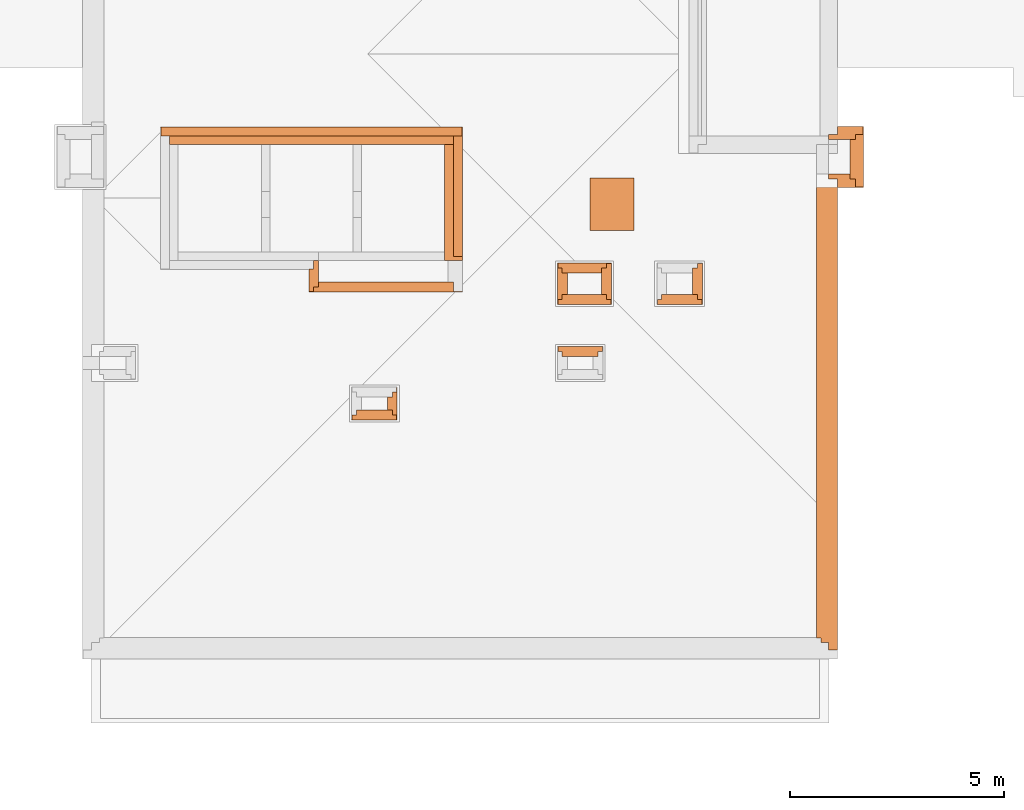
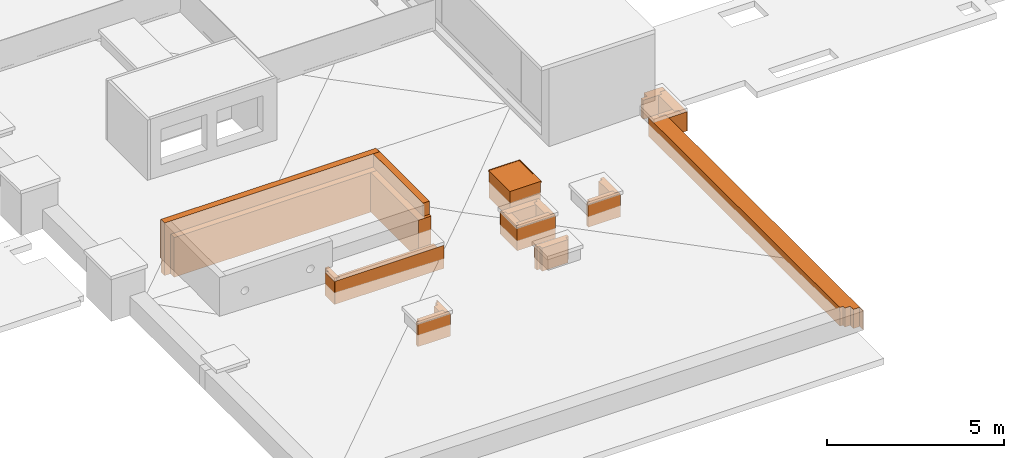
# One storey, part 11 of 16: 18 proxies.
"""IFC2X3 building model written with IfcOpenShell, lengths in millimetres."""

import ifcopenshell
import ifcopenshell.guid

model = None  # the IFC model being written
_history = None  # IfcOwnerHistory: only IFC2X3 demands one
_inside = {}  # id of a spatial element -> (the spatial element, [elements in it])
_under = {}  # id of a project, library or spatial element -> (it, [spatial elements below it])
_declared = {}  # id of a project -> (the project, [libraries it declares])
_typed = {}  # id of a type object -> (the type object, [elements of that type])
_made_of = {}  # id of a material, layer set ... -> (it, [elements and type objects made of it])


def new_model(schema):
    """Start an empty IFC model of exactly this schema.

    Asked for "IFC4X3", IfcOpenShell would pick the latest addendum, in which some entities
    have other attributes; the version numbers below select the first issue.
    IFC2X3 requires an IfcOwnerHistory on every rooted entity: one is made here for all.
    """
    global model, _history
    if schema == "IFC4X3":
        model = ifcopenshell.file(schema_version=(4, 3, 0, 0))
    else:
        model = ifcopenshell.file(schema=schema)
    _inside.clear()
    _under.clear()
    _declared.clear()
    _typed.clear()
    _made_of.clear()
    _history = None
    if model.schema == "IFC2X3":
        org = make("IfcOrganization", Name="unknown")
        user = make(
            "IfcPersonAndOrganization",
            ThePerson=make("IfcPerson", FamilyName="unknown"),
            TheOrganization=org,
        )
        app = make(
            "IfcApplication",
            ApplicationDeveloper=org,
            Version="unknown",
            ApplicationFullName="unknown",
            ApplicationIdentifier="unknown",
        )
        _history = make(
            "IfcOwnerHistory",
            OwningUser=user,
            OwningApplication=app,
            ChangeAction="ADDED",
            CreationDate=0,
        )
    return model


def make(cls, **values):
    """One entity of the class cls with the attributes given. An attribute that is None is left unset."""
    return model.create_entity(
        cls, **{name: value for name, value in values.items() if value is not None}
    )


def entity(cls, *values):
    """Any entity or typed value of the class cls, its attributes in the order of the schema. None: left unset."""
    e = model.create_entity(cls)
    for i, value in enumerate(values):
        if value is not None:
            e[i] = value
    return e


def rooted(cls, **values):
    """An entity with a GlobalId (a new one), such as an element, a storey or a relation."""
    return make(cls, GlobalId=ifcopenshell.guid.new(), OwnerHistory=_history, **values)


def si_unit(unit_type, name, prefix=None):
    """IfcSIUnit, for example si_unit("LENGTHUNIT", "METRE", prefix="MILLI")."""
    return make("IfcSIUnit", UnitType=unit_type, Prefix=prefix, Name=name)


def converted_unit(unit_type, name, factor, base, dimensions=None, offset=None):
    """IfcConversionBasedUnit, such as the inch: factor (a typed value) times the base unit."""
    return make(
        "IfcConversionBasedUnit"
        if offset is None
        else "IfcConversionBasedUnitWithOffset",
        ConversionOffset=offset,
        Dimensions=None
        if dimensions is None
        else entity("IfcDimensionalExponents", *dimensions),
        UnitType=unit_type,
        Name=name,
        ConversionFactor=make(
            "IfcMeasureWithUnit", ValueComponent=factor, UnitComponent=base
        ),
    )


def derived_unit(unit_type, elements):
    """IfcDerivedUnit: a product of units, each with its exponent."""
    return make(
        "IfcDerivedUnit",
        Elements=[
            make("IfcDerivedUnitElement", Unit=unit, Exponent=power)
            for unit, power in elements
        ],
        UnitType=unit_type,
    )


def money_unit(currency):
    """IfcMonetaryUnit."""
    return make("IfcMonetaryUnit", Currency=currency)


def assignment(units):
    """IfcUnitAssignment: the units of a project."""
    return None if units is None else make("IfcUnitAssignment", Units=units)


def point(xyz):
    """IfcCartesianPoint."""
    return None if xyz is None else make("IfcCartesianPoint", Coordinates=xyz)


def direction(xyz):
    """IfcDirection."""
    return None if xyz is None else make("IfcDirection", DirectionRatios=xyz)


def frame(location, z_axis=None, x_axis=None):
    """IfcAxis2Placement3D, a coordinate frame: its origin and axes. An axis left out is left unset."""
    return make(
        "IfcAxis2Placement3D",
        Location=point(location),
        Axis=direction(z_axis),
        RefDirection=direction(x_axis),
    )


def origin_with_axes():
    """The frame at (0, 0, 0) with the z axis (0, 0, 1) and the x axis (1, 0, 0) written out."""
    return frame((0.0, 0.0, 0.0), z_axis=(0.0, 0.0, 1.0), x_axis=(1.0, 0.0, 0.0))


def place(relative_to, where):
    """IfcLocalPlacement: puts the frame where relative to a parent placement (None: the world)."""
    return make(
        "IfcLocalPlacement", PlacementRelTo=relative_to, RelativePlacement=where
    )


def context(
    kind, dimensions, precision=None, world=None, true_north=None, identifier=None
):
    """IfcGeometricRepresentationContext, for example the 3D "Model" context."""
    return make(
        "IfcGeometricRepresentationContext",
        ContextIdentifier=identifier,
        ContextType=kind,
        CoordinateSpaceDimension=dimensions,
        Precision=precision,
        WorldCoordinateSystem=world,
        TrueNorth=true_north,
    )


def subcontext(parent, identifier, kind, view, scale=None):
    """IfcGeometricRepresentationSubContext, for example "Body" below "Model"."""
    return make(
        "IfcGeometricRepresentationSubContext",
        ContextIdentifier=identifier,
        ContextType=kind,
        ParentContext=parent,
        TargetScale=scale,
        TargetView=view,
    )


def project(units=None, contexts=None):
    """IfcProject with its units and contexts."""
    return rooted(
        "IfcProject",
        Name="project",
        RepresentationContexts=contexts,
        UnitsInContext=assignment(units),
    )


def spatial(cls, under=None, at=None, **own):
    """A site, building, storey or space (cls), placed at a placement, below another one or the project."""
    s = rooted(cls, ObjectPlacement=at, **own)
    if under is not None:
        _under.setdefault(under.id(), (under, []))[1].append(s)
    return s


def faces_of(points, faces, orient=None, outer=None):
    """IfcFace entities. A face is a list of loops; a loop is a list of indices into points, from 0.

    orient and outer hold one flag for each loop. By default every Orientation is true, the
    first loop of a face is its IfcFaceOuterBound and the others are IfcFaceBound.
    """
    made = []
    for i, loops in enumerate(faces):
        bounds = []
        for j, loop in enumerate(loops):
            is_outer = j == 0 if outer is None else outer[i][j]
            bounds.append(
                make(
                    "IfcFaceOuterBound" if is_outer else "IfcFaceBound",
                    Bound=make("IfcPolyLoop", Polygon=[points[k] for k in loop]),
                    Orientation=True if orient is None else orient[i][j],
                )
            )
        made.append(make("IfcFace", Bounds=bounds))
    return made


def faceted_brep(points, faces, orient=None, outer=None, voids=None):
    """IfcFacetedBrep: a solid bounded by flat faces; with voids (closed shells), ...WithVoids."""
    shared = [point(p) for p in points]
    hull = make("IfcClosedShell", CfsFaces=faces_of(shared, faces, orient, outer))
    if voids is None:
        return make("IfcFacetedBrep", Outer=hull)
    return make(
        "IfcFacetedBrepWithVoids",
        Outer=hull,
        Voids=[
            make(cls, CfsFaces=faces_of(shared, fs, o, b)) for cls, fs, o, b in voids
        ],
    )


def shape(context_of_items, identifier, shape_type, items):
    """IfcShapeRepresentation: the items that make up one representation, for example the "Body"."""
    return make(
        "IfcShapeRepresentation",
        ContextOfItems=context_of_items,
        RepresentationIdentifier=identifier,
        RepresentationType=shape_type,
        Items=items,
    )


def material(Name=None, Category=None):
    """IfcMaterial."""
    return make("IfcMaterial", Name=Name, Category=Category)


def material_list(materials):
    """IfcMaterialList."""
    return make("IfcMaterialList", Materials=materials)


def made_of(thing, what):
    """Note that an element or type object is made of a material, layer set ...; save() writes the relation."""
    if what is not None:
        _made_of.setdefault(what.id(), (what, []))[1].append(thing)
    return thing


def type_object(cls, material=None, **own):
    """A type object (cls), such as IfcWallType, which elements share."""
    return made_of(rooted(cls, **own), material)


def element(
    cls,
    number,
    at=None,
    inside=None,
    cuts=None,
    type_object=None,
    material=None,
    context=None,
    identifier="Body",
    shape_type=None,
    held_by="IfcProductDefinitionShape",
    body=None,
    shapes=None,
    **own,
):
    """One element of the class cls, such as IfcWall. Its Tag is "e" and its number.

    at: its placement. inside: the storey or other place that contains it. cuts: it is an
    opening in that element (IfcRelVoidsElement). A single representation is given by context,
    identifier, shape_type and body (its items); several are given by shapes. held_by: the class
    of the entity that holds the representations. save() writes the other relations.
    """
    e = rooted(cls, Tag="e%d" % number, ObjectPlacement=at, **own)
    if body is not None:
        shapes = [shape(context, identifier, shape_type, body)]
    if shapes is not None:
        e.Representation = make(held_by, Representations=shapes)
    if inside is not None:
        _inside.setdefault(inside.id(), (inside, []))[1].append(e)
    if cuts is not None:
        rooted(
            "IfcRelVoidsElement", RelatingBuildingElement=cuts, RelatedOpeningElement=e
        )
    if type_object is not None:
        _typed.setdefault(type_object.id(), (type_object, []))[1].append(e)
    return made_of(e, material)


def aggregate(whole, parts):
    """IfcRelAggregates: a whole, such as a stair, and the parts it consists of."""
    return rooted("IfcRelAggregates", RelatingObject=whole, RelatedObjects=parts)


def save(model, path):
    """Write the relations noted so far, then the file.

    IfcRelAggregates (storeys below a building ...), IfcRelContainedInSpatialStructure (elements
    in a storey), IfcRelDefinesByType, IfcRelAssociatesMaterial and IfcRelDeclares: one each for
    every whole, place, type object, material and project.
    """
    for whole, parts in _under.values():
        aggregate(whole, parts)
    for where, things in _inside.values():
        rooted(
            "IfcRelContainedInSpatialStructure",
            RelatedElements=things,
            RelatingStructure=where,
        )
    for kind, things in _typed.values():
        rooted("IfcRelDefinesByType", RelatedObjects=things, RelatingType=kind)
    for what, things in _made_of.values():
        rooted("IfcRelAssociatesMaterial", RelatedObjects=things, RelatingMaterial=what)
    for by, libraries in _declared.values():
        rooted("IfcRelDeclares", RelatingContext=by, RelatedDefinitions=libraries)
    model.write(path)


model = new_model("IFC2X3")

# Units and contexts
model_context = context("Model", 3, precision=0.01, world=origin_with_axes(), true_north=direction((0.34421633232, 0.938890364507)))
body_context = subcontext(model_context, "Body", "Model", "MODEL_VIEW")
ifc_project = project(units=[si_unit("LENGTHUNIT", "METRE", prefix="MILLI"), si_unit("AREAUNIT", "SQUARE_METRE"), si_unit("VOLUMEUNIT", "CUBIC_METRE"), converted_unit("PLANEANGLEUNIT", "DEGREE", entity("IfcPlaneAngleMeasure", 0.0174532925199), si_unit("PLANEANGLEUNIT", "RADIAN"), dimensions=[0, 0, 0, 0, 0, 0, 0]), si_unit("SOLIDANGLEUNIT", "STERADIAN"), money_unit("USD"), converted_unit("TIMEUNIT", "Year", entity("IfcTimeMeasure", 31556926.0), si_unit("TIMEUNIT", "SECOND"), dimensions=[0, 0, 1, 0, 0, 0, 0]), si_unit("MASSUNIT", "GRAM", prefix="KILO"), si_unit("THERMODYNAMICTEMPERATUREUNIT", "DEGREE_CELSIUS"), si_unit("LUMINOUSINTENSITYUNIT", "LUMEN"), si_unit("ENERGYUNIT", "JOULE", prefix="MEGA"), derived_unit("THERMALCONDUCTANCEUNIT", [(si_unit("POWERUNIT", "WATT"), 1), (si_unit("LENGTHUNIT", "METRE"), -1), (si_unit("THERMODYNAMICTEMPERATUREUNIT", "KELVIN"), -1)]), derived_unit("SPECIFICHEATCAPACITYUNIT", [(si_unit("ENERGYUNIT", "JOULE"), 1), (si_unit("MASSUNIT", "GRAM", prefix="KILO"), -1), (si_unit("THERMODYNAMICTEMPERATUREUNIT", "KELVIN"), -1)]), derived_unit("MASSDENSITYUNIT", [(si_unit("MASSUNIT", "GRAM", prefix="KILO"), 1), (si_unit("VOLUMEUNIT", "CUBIC_METRE"), -1)])], contexts=[model_context])

# Site, building, storey
site_placement = place(None, origin_with_axes())
site = spatial("IfcSite", under=ifc_project, at=site_placement, Name="USTRONIE MORSKIE", CompositionType="ELEMENT")
building_placement = place(site_placement, origin_with_axes())
building = spatial("IfcBuilding", under=site, at=building_placement, Name="Budynek", CompositionType="ELEMENT")
storey_placement = place(building_placement, frame((0.0, 0.0, 19000.0), z_axis=(0.0, 0.0, 1.0), x_axis=(1.0, 0.0, 0.0)))
storey = spatial("IfcBuildingStorey", under=building, at=storey_placement, Name="DACH", CompositionType="ELEMENT", Elevation=19000.0)

# Proxies
ifc_material_1 = material(Name="Tynk zewnętrzny")
ifc_material_2 = material(Name="Wełna ELEW")
ifc_material_3 = material(Name="Beton konstrukcyjny B25")
ifc_material_list_1 = material_list([ifc_material_1, ifc_material_2, ifc_material_3])
building_element_proxy_type_1 = type_object("IfcBuildingElementProxyType", Name="20+20 410", PredefinedType="NOTDEFINED")
proxy_1_placement = place(storey_placement, frame((387557.920919, 732801.199036, -360.0), z_axis=(0.0, 0.0, 1.0), x_axis=(0.0, -1.0, 0.0)))
element("IfcBuildingElementProxy", 1, at=proxy_1_placement, inside=storey, type_object=building_element_proxy_type_1, material=ifc_material_list_1, Name="Œciana-006", context=body_context, shape_type="Brep", body=[
    faceted_brep([(199.99988544, 310.00000007, 205.0), (199.999888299, 310.000002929, 551.911990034), (-300.0, 310.000000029, 561.9119878), (-300.0, 310.000000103, 2025.0), (2710.00001118, 310.000002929, 2025.0), (2710.00001118, 310.000002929, 1570.00001229), (2810.00001118, 310.000002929, 1570.00001229), (2810.00001118, 310.000000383, 205.0), (189.999884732, 300.0, 205.0), (189.999884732, 300.0, 552.111990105), (-300.0, 300.0, 561.9119878), (-300.0, 300.000000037, 2025.0), (2710.00001118, 300.000001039, 2025.0), (2710.00001118, 300.000001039, 1570.00001229), (2810.00001118, 300.000001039, 1570.00001229), (2810.00001118, 300.000000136, 205.0)], [[[0, 1, 2, 3, 4, 5, 6, 7]], [[1, 0, 8, 9]], [[10, 2, 1, 9]], [[2, 10, 11, 3]], [[4, 3, 11, 12]], [[4, 12, 13, 5]], [[5, 13, 14, 6]], [[6, 14, 15, 7]], [[8, 0, 7, 15]], [[9, 8, 15, 14, 13, 12, 11, 10]]]),
    faceted_brep([(2710.00001118, 300.000001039, 2025.0), (2710.00001118, 300.000001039, 1570.00001229), (2810.00001118, 300.000001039, 1570.00001229), (2810.00001118, 300.000000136, 205.0), (-100.0, 300.00000001, 205.0), (-100.0, 300.000000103, 2025.0), (2710.00001118, 99.9999971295, 2025.0), (2710.00001118, 99.9999971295, 1570.00001229), (2810.00001118, 99.9999971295, 1570.00001229), (2810.00001118, 99.9999996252, 205.0), (-100.0, 99.9999999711, 205.0), (-100.0, 99.9999997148, 2025.0)], [[[0, 1, 2, 3, 4, 5]], [[1, 0, 6, 7]], [[8, 2, 1, 7]], [[3, 2, 8, 9]], [[4, 3, 9, 10]], [[10, 11, 5, 4]], [[6, 0, 5, 11]], [[7, 6, 11, 10, 9, 8]]]),
    faceted_brep([(100.0, 100.0, 1570.0), (100.0, 99.9999999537, 200.0), (100.0, -100.0, 200.0), (100.0, -100.0, 1570.0), (2810.00001118, 99.9999971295, 1570.00001229), (2810.00001118, 99.9999996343, 200.0), (2710.00001118, 100.0, 1570.0), (2810.00001118, -100.0, 200.0), (2810.00001118, -100.0, 1570.00001229), (2710.00001118, -100.0, 1570.0)], [[[0, 1, 2, 3]], [[4, 5, 1, 0, 6]], [[1, 5, 7, 2]], [[2, 7, 8, 9, 3]], [[0, 3, 9, 6]], [[5, 4, 8, 7]], [[9, 8, 4, 6]]]),
])
proxy_2_placement = place(storey_placement, frame((381137.920919, 732801.199036, -360.0), z_axis=(0.0, 0.0, 1.0), x_axis=(1.0, 0.0, 0.0)))
element("IfcBuildingElementProxy", 2, at=proxy_2_placement, inside=storey, type_object=building_element_proxy_type_1, material=ifc_material_list_1, Name="Œciana-006", context=body_context, shape_type="Brep", body=[
    faceted_brep([(6730.0, 300.0, 561.9119878), (6730.0, 310.0, 562.1119878), (6730.0, 310.0, 2025.0), (6730.0, 300.0, 2025.0), (6220.00020516, 310.00001132, 562.111988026), (6720.0, 300.0, 561.9119878), (6230.0000855, 300.000132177, 561.911990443), (-310.0, 310.0, 692.711987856), (-310.0, 310.0, 2025.0), (-310.0, 300.0, 2025.0), (-310.0, 300.0, 692.711987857), (-300.0, 300.0, 692.511987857)], [[[0, 1, 2, 3]], [[4, 1, 0, 5, 6]], [[1, 4, 7, 8, 2]], [[8, 9, 3, 2]], [[5, 0, 3, 9, 10, 11, 6]], [[4, 6, 11, 10, 7]], [[8, 7, 10, 9]]]),
    faceted_brep([(6720.0, 300.0, 205.0), (6720.0, 300.0, 2025.0), (6720.0, 100.0, 2025.0), (6720.0, 100.0, 205.0), (-300.0, 300.0, 205.0), (-300.0, 300.0, 2025.0), (-300.0, 100.0, 2025.0), (-300.0, 100.0, 205.0)], [[[0, 1, 2, 3]], [[4, 5, 1, 0]], [[1, 5, 6, 2]], [[3, 2, 6, 7]], [[0, 3, 7, 4]], [[7, 6, 5, 4]]]),
    faceted_brep([(6520.0, 100.0, 200.0), (-100.0, 100.0, 200.0), (-100.0, 99.9999999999, 1570.0), (6520.0, 99.9999999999, 1570.0), (6520.0, -100.0, 200.0), (-100.0, -100.0, 200.0), (-100.0, -100.0, 1570.0), (6520.0, -100.0, 1570.0)], [[[0, 1, 2, 3]], [[4, 5, 1, 0]], [[1, 5, 6, 2]], [[2, 6, 7, 3]], [[4, 0, 3, 7]], [[5, 4, 7, 6]]]),
])
ifc_material_4 = material(Name="Bloczki silikatowe")
ifc_material_list_2 = material_list([ifc_material_1, ifc_material_2, ifc_material_4, ifc_material_2, ifc_material_1])
building_element_proxy_type_2 = type_object("IfcBuildingElementProxyType", Name="18 SILIKAT+20-10 500", PredefinedType="NOTDEFINED")
proxy_3_placement = place(storey_placement, frame((396417.920919, 732011.199132, -160.0), z_axis=(0.0, 0.0, 1.0), x_axis=(0.0, -1.0, 0.0)))
element("IfcBuildingElementProxy", 3, at=proxy_3_placement, inside=storey, type_object=building_element_proxy_type_2, material=ifc_material_list_2, Name="Œciana-006", context=body_context, shape_type="Brep", body=[
    faceted_brep([(11310.0000963, 200.0, 660.0), (11310.0000963, 210.0, 660.0), (310.0, 210.0, 660.0), (310.0, 200.0, 660.0), (11310.0000963, 200.0, 0.0), (11310.0000963, 210.0, 0.0), (310.0, 210.0, 0.0), (310.0, 200.0, 0.0)], [[[0, 1, 2, 3]], [[1, 0, 4, 5]], [[1, 5, 6, 2]], [[7, 3, 2, 6]], [[4, 0, 3, 7]], [[5, 4, 7, 6]]]),
    faceted_brep([(11110.0000963, 0.0, 660.0), (11110.0000963, 200.0, 660.0), (120.0, 200.0, 660.0), (120.0, 0.0, 660.0), (11110.0000963, 0.0, 0.0), (11110.0000963, 200.0, 0.0), (120.0, 200.0, 0.0), (120.0, 0.0, 0.0)], [[[0, 1, 2, 3]], [[1, 0, 4, 5]], [[1, 5, 6, 2]], [[7, 3, 2, 6]], [[4, 0, 3, 7]], [[5, 4, 7, 6]]]),
    faceted_brep([(0.0, -180.0, 660.0), (10930.0000963, -180.0, 660.0), (10930.0000963, 0.0, 660.0), (0.0, 0.0, 660.0), (0.0, -180.0, 0.0), (10930.0000963, -180.0, 0.0), (10930.0000963, 0.0, 0.0), (0.0, 0.0, 0.0)], [[[0, 1, 2, 3]], [[4, 5, 1, 0]], [[6, 2, 1, 5]], [[3, 2, 6, 7]], [[7, 4, 0, 3]], [[7, 6, 5, 4]]]),
    faceted_brep([(0.0, -180.0, 660.0), (10830.0000963, -180.0, 660.0), (10830.0000963, -180.0, 5.0), (0.0, -180.0, 5.0), (0.0, -280.0, 660.0), (10830.0000963, -280.0, 660.0), (10830.0000963, -280.0, 5.0), (0.0, -280.0, 5.0)], [[[0, 1, 2, 3]], [[1, 0, 4, 5]], [[1, 5, 6, 2]], [[2, 6, 7, 3]], [[4, 0, 3, 7]], [[5, 4, 7, 6]]]),
    faceted_brep([(10820.0000963, -280.0, 516.511989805), (7680.00010825, -280.0, 453.711990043), (0.0, -280.00003336, 453.7119868), (0.0, -280.0, 660.0), (10820.0000963, -280.0, 660.0), (7669.99999938, -290.000108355, 453.511987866), (10820.0000963, -290.0, 516.511989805), (0.0, -290.0, 453.511987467), (0.0, -290.0, 660.0), (10820.0000963, -290.0, 660.0)], [[[0, 1, 2, 3, 4]], [[5, 1, 0, 6]], [[1, 5, 7, 2]], [[3, 2, 7, 8]], [[4, 3, 8, 9]], [[6, 0, 4, 9]], [[5, 6, 9, 8, 7]]]),
])
ifc_material_list_3 = material_list([ifc_material_1, ifc_material_2, ifc_material_4])
building_element_proxy_type_3 = type_object("IfcBuildingElementProxyType", Name="12+18_TERMO 310", PredefinedType="NOTDEFINED")
proxy_4_placement = place(storey_placement, frame((396317.920919, 732811.196513, -160.0), z_axis=(0.0, 0.0, 1.0), x_axis=(1.0, 0.0, 0.0)))
element("IfcBuildingElementProxy", 4, at=proxy_4_placement, inside=storey, type_object=building_element_proxy_type_3, material=ifc_material_list_3, Name="Œciana-006", context=body_context, shape_type="Brep", body=[
    faceted_brep([(909.987641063, 300.0, 660.0), (909.987641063, 310.0, 660.0), (310.0, 310.0, 660.0), (310.0, 300.0, 660.0), (909.987641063, 300.0, 0.0), (909.987641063, 310.0, 0.0), (310.0, 310.0, 0.0), (310.0, 300.0, 0.0)], [[[0, 1, 2, 3]], [[1, 0, 4, 5]], [[1, 5, 6, 2]], [[7, 3, 2, 6]], [[4, 0, 3, 7]], [[5, 4, 7, 6]]]),
    faceted_brep([(899.987641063, 120.0, 660.0), (899.987641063, 300.0, 660.0), (300.0, 300.0, 660.0), (300.0, 120.0, 660.0), (899.987641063, 120.0, 0.0), (899.987641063, 300.0, 0.0), (300.0, 300.0, 0.0), (300.0, 120.0, 0.0)], [[[0, 1, 2, 3]], [[1, 0, 4, 5]], [[1, 5, 6, 2]], [[7, 3, 2, 6]], [[4, 0, 3, 7]], [[5, 4, 7, 6]]]),
    faceted_brep([(719.987641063, 0.0, 660.0), (719.987641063, 120.0, 660.0), (100.0, 120.0, 660.0), (100.0, 0.0, 660.0), (719.987641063, 0.0, 0.0), (719.987641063, 120.0, 0.0), (100.0, 120.0, 0.0), (100.0, 0.0, 0.0)], [[[0, 1, 2, 3]], [[1, 0, 4, 5]], [[1, 5, 6, 2]], [[7, 3, 2, 6]], [[4, 0, 3, 7]], [[5, 4, 7, 6]]]),
])
proxy_5_placement = place(storey_placement, frame((396917.90856, 732011.199132, -160.0), z_axis=(0.0, 0.0, 1.0), x_axis=(-1.0, 0.0, 0.0)))
element("IfcBuildingElementProxy", 5, at=proxy_5_placement, inside=storey, type_object=building_element_proxy_type_3, material=ifc_material_list_3, Name="Œciana-006", context=body_context, shape_type="Brep", body=[
    faceted_brep([(299.987641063, 300.0, 660.0), (299.987641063, 310.0, 660.0), (-300.0, 310.0, 660.0), (-300.0, 300.0, 660.0), (299.987641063, 300.0, 0.0), (299.987641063, 310.0, 0.0), (-300.0, 310.0, 0.0), (-300.0, 300.0, 0.0)], [[[0, 1, 2, 3]], [[1, 0, 4, 5]], [[1, 5, 6, 2]], [[7, 3, 2, 6]], [[4, 0, 3, 7]], [[5, 4, 7, 6]]]),
    faceted_brep([(299.987641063, 120.0, 660.0), (299.987641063, 300.0, 660.0), (-120.0, 300.0, 660.0), (-120.0, 120.0, 660.0), (299.987641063, 120.0, 0.0), (299.987641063, 300.0, 0.0), (-120.0, 300.0, 0.0), (-120.0, 120.0, 0.0)], [[[0, 1, 2, 3]], [[1, 0, 4, 5]], [[1, 5, 6, 2]], [[7, 3, 2, 6]], [[4, 0, 3, 7]], [[5, 4, 7, 6]]]),
    faceted_brep([(0.0, 0.0, 660.0), (499.987641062, 0.0, 660.0), (499.987641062, 120.0, 660.0), (0.0, 120.0, 660.0), (0.0, 0.0, 0.0), (499.987641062, 0.0, 0.0), (499.987641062, 120.0, 0.0), (0.0, 120.0, 0.0)], [[[0, 1, 2, 3]], [[4, 5, 1, 0]], [[6, 2, 1, 5]], [[3, 2, 6, 7]], [[7, 4, 0, 3]], [[7, 6, 5, 4]]]),
])
proxy_6_placement = place(storey_placement, frame((396917.90856, 732811.196513, -160.0), z_axis=(0.0, 0.0, 1.0), x_axis=(0.0, -1.0, 0.0)))
element("IfcBuildingElementProxy", 6, at=proxy_6_placement, inside=storey, type_object=building_element_proxy_type_3, material=ifc_material_list_3, Name="Œciana-006", context=body_context, shape_type="Brep", body=[
    faceted_brep([(1109.99738026, 300.0, 660.0), (1109.99738026, 310.0, 660.0), (-300.0, 310.0, 660.0), (-300.0, 300.0, 660.0), (1109.99738026, 300.0, 0.0), (1109.99738026, 310.0, 0.0), (-300.0, 310.0, 0.0), (-300.0, 300.0, 0.0)], [[[0, 1, 2, 3]], [[1, 0, 4, 5]], [[1, 5, 6, 2]], [[7, 3, 2, 6]], [[4, 0, 3, 7]], [[5, 4, 7, 6]]]),
    faceted_brep([(1099.99738026, 120.0, 660.0), (1099.99738026, 300.0, 660.0), (-120.0, 300.0, 660.0), (-120.0, 120.0, 660.0), (1099.99738026, 120.0, 0.0), (1099.99738026, 300.0, 0.0), (-120.0, 300.0, 0.0), (-120.0, 120.0, 0.0)], [[[0, 1, 2, 3]], [[1, 0, 4, 5]], [[1, 5, 6, 2]], [[7, 3, 2, 6]], [[4, 0, 3, 7]], [[5, 4, 7, 6]]]),
    faceted_brep([(919.997380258, 0.0, 660.0), (919.997380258, 120.0, 660.0), (0.0, 120.0, 660.0), (0.0, 0.0, 660.0), (919.997380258, 0.0, 0.0), (919.997380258, 120.0, 0.0), (0.0, 120.0, 0.0), (0.0, 0.0, 0.0)], [[[0, 1, 2, 3]], [[1, 0, 4, 5]], [[1, 5, 6, 2]], [[7, 3, 2, 6]], [[4, 0, 3, 7]], [[5, 4, 7, 6]]]),
])
ifc_material_list_4 = material_list([ifc_material_4, ifc_material_2, ifc_material_1])
building_element_proxy_type_4 = type_object("IfcBuildingElementProxyType", Name="12+10 kominy 230", PredefinedType="NOTDEFINED")
proxy_7_placement = place(storey_placement, frame((390317.920919, 729201.199036, -159.999998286), z_axis=(0.0, 0.0, 1.0), x_axis=(1.0, 0.0, 0.0)))
element("IfcBuildingElementProxy", 7, at=proxy_7_placement, inside=storey, type_object=building_element_proxy_type_4, material=ifc_material_list_4, Name="Œciana-006", context=body_context, shape_type="Brep", body=[
    faceted_brep([(920.00090117, 0.0, 0.0), (920.00090117, -120.0, 0.0), (-120.0, -120.0, 0.0), (-120.0, 0.0, 0.0), (920.00090117, 0.0, 800.0), (920.00090117, -120.0, 800.0), (-120.0, -120.0, 800.0), (-120.0, 0.0, 800.0)], [[[0, 1, 2, 3]], [[1, 0, 4, 5]], [[1, 5, 6, 2]], [[7, 3, 2, 6]], [[4, 0, 3, 7]], [[5, 4, 7, 6]]]),
    faceted_brep([(1020.00090117, -220.0, 4.99999828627), (1020.00090117, -120.0, 4.99999828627), (1020.00090117, -120.0, 800.0), (1020.00090117, -220.0, 800.0), (-220.0, -120.0, 4.99999828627), (-220.0, -220.0, 4.99999828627), (-220.0, -120.0, 800.0), (-220.0, -220.0, 800.0)], [[[0, 1, 2, 3]], [[4, 1, 0, 5]], [[1, 4, 6, 2]], [[3, 2, 6, 7]], [[5, 0, 3, 7]], [[4, 5, 7, 6]]]),
    faceted_brep([(1030.00090117, -230.0, 4.99999828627), (1030.00090117, -220.0, 4.99999828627), (1030.00090117, -220.0, 800.0), (1030.00090117, -230.0, 800.0), (-230.0, -220.0, 4.99999828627), (-230.0, -230.0, 4.99999828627), (-230.0, -220.0, 800.0), (-230.0, -230.0, 800.0)], [[[0, 1, 2, 3]], [[4, 1, 0, 5]], [[1, 4, 6, 2]], [[3, 2, 6, 7]], [[5, 0, 3, 7]], [[4, 5, 7, 6]]]),
])
proxy_8_placement = place(storey_placement, frame((390917.920919, 727751.199036, -159.999998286), z_axis=(0.0, 0.0, 1.0), x_axis=(-1.0, 0.0, 0.0)))
element("IfcBuildingElementProxy", 8, at=proxy_8_placement, inside=storey, type_object=building_element_proxy_type_4, material=ifc_material_list_4, Name="Œciana-006", context=body_context, shape_type="Brep", body=[
    faceted_brep([(720.0, 0.0, 0.0), (720.0, -120.0, 0.0), (-120.0, -120.0, 0.0), (-120.0, 0.0, 0.0), (720.0, 0.0, 800.0), (720.0, -120.0, 800.0), (-120.0, -120.0, 800.0), (-120.0, 0.0, 800.0)], [[[0, 1, 2, 3]], [[1, 0, 4, 5]], [[1, 5, 6, 2]], [[7, 3, 2, 6]], [[4, 0, 3, 7]], [[5, 4, 7, 6]]]),
    faceted_brep([(-220.0, -120.0, 4.99999828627), (-220.0, -220.0, 4.99999828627), (-220.0, -220.0, 800.0), (-220.0, -120.0, 800.0), (820.0, -220.0, 4.99999828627), (820.0, -120.0, 4.99999828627), (820.0, -220.0, 800.0), (820.0, -120.0, 800.0)], [[[0, 1, 2, 3]], [[4, 1, 0, 5]], [[1, 4, 6, 2]], [[6, 7, 3, 2]], [[5, 0, 3, 7]], [[4, 5, 7, 6]]]),
    faceted_brep([(-230.0, -220.0, 4.99999828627), (-230.0, -230.0, 4.99999828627), (-230.0, -230.0, 800.0), (-230.0, -220.0, 800.0), (830.0, -230.0, 4.99999828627), (830.0, -220.0, 4.99999828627), (830.0, -230.0, 800.0), (830.0, -220.0, 800.0)], [[[0, 1, 2, 3]], [[4, 1, 0, 5]], [[1, 4, 6, 2]], [[6, 7, 3, 2]], [[5, 0, 3, 7]], [[4, 5, 7, 6]]]),
])
proxy_9_placement = place(storey_placement, frame((392637.920919, 729201.199036, -159.999998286), z_axis=(0.0, 0.0, 1.0), x_axis=(1.0, 0.0, 0.0)))
element("IfcBuildingElementProxy", 9, at=proxy_9_placement, inside=storey, type_object=building_element_proxy_type_4, material=ifc_material_list_4, Name="Œciana-006", context=body_context, shape_type="Brep", body=[
    faceted_brep([(720.0, 0.0, 0.0), (720.0, -120.0, 0.0), (-120.0, -120.0, 0.0), (-120.0, 0.0, 0.0), (720.0, 0.0, 800.0), (720.0, -120.0, 800.0), (-120.0, -120.0, 800.0), (-120.0, 0.0, 800.0)], [[[0, 1, 2, 3]], [[1, 0, 4, 5]], [[1, 5, 6, 2]], [[7, 3, 2, 6]], [[4, 0, 3, 7]], [[5, 4, 7, 6]]]),
    faceted_brep([(820.0, -220.0, 4.99999828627), (820.0, -120.0, 4.99999828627), (820.0, -120.0, 800.0), (820.0, -220.0, 800.0), (-220.0, -120.0, 4.99999828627), (-220.0, -220.0, 4.99999828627), (-220.0, -120.0, 800.0), (-220.0, -220.0, 800.0)], [[[0, 1, 2, 3]], [[4, 1, 0, 5]], [[1, 4, 6, 2]], [[3, 2, 6, 7]], [[5, 0, 3, 7]], [[4, 5, 7, 6]]]),
    faceted_brep([(830.0, -230.0, 4.99999828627), (830.0, -220.0, 4.99999828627), (830.0, -220.0, 800.0), (830.0, -230.0, 800.0), (-230.0, -220.0, 4.99999828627), (-230.0, -230.0, 4.99999828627), (-230.0, -220.0, 800.0), (-230.0, -230.0, 800.0)], [[[0, 1, 2, 3]], [[4, 1, 0, 5]], [[1, 4, 6, 2]], [[3, 2, 6, 7]], [[5, 0, 3, 7]], [[4, 5, 7, 6]]]),
])
proxy_10_placement = place(storey_placement, frame((391117.92182, 729201.199036, -159.999998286), z_axis=(0.0, 0.0, 1.0), x_axis=(0.0, 1.0, 0.0)))
element("IfcBuildingElementProxy", 10, at=proxy_10_placement, inside=storey, type_object=building_element_proxy_type_4, material=ifc_material_list_4, Name="Œciana-006", context=body_context, shape_type="Brep", body=[
    faceted_brep([(620.0, 0.0, 0.0), (620.0, -120.0, 0.0), (0.0, -120.0, 0.0), (0.0, 0.0, 0.0), (620.0, 0.0, 800.0), (620.0, -120.0, 800.0), (0.0, -120.0, 800.0), (0.0, 0.0, 800.0)], [[[0, 1, 2, 3]], [[1, 0, 4, 5]], [[1, 5, 6, 2]], [[7, 3, 2, 6]], [[4, 0, 3, 7]], [[5, 4, 7, 6]]]),
    faceted_brep([(-120.0, -220.0, 4.99999828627), (720.0, -220.0, 4.99999828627), (720.0, -220.0, 800.0), (-120.0, -220.0, 800.0), (720.0, -120.0, 4.99999828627), (-120.0, -120.0, 4.99999828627), (720.0, -120.0, 800.0), (-120.0, -120.0, 800.0)], [[[0, 1, 2, 3]], [[4, 1, 0, 5]], [[1, 4, 6, 2]], [[2, 6, 7, 3]], [[5, 0, 3, 7]], [[4, 5, 7, 6]]]),
    faceted_brep([(-220.0, -230.0, 4.99999828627), (730.0, -230.0, 4.99999828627), (730.0, -230.0, 800.0), (-220.0, -230.0, 800.0), (730.0, -220.0, 4.99999828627), (-220.0, -220.0, 4.99999828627), (730.0, -220.0, 800.0), (-220.0, -220.0, 800.0)], [[[0, 1, 2, 3]], [[4, 1, 0, 5]], [[1, 4, 6, 2]], [[2, 6, 7, 3]], [[5, 0, 3, 7]], [[4, 5, 7, 6]]]),
])
proxy_11_placement = place(storey_placement, frame((384517.920018, 729491.199036, -159.999998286), z_axis=(0.0, 0.0, 1.0), x_axis=(1.0, 0.0, 0.0)))
element("IfcBuildingElementProxy", 11, at=proxy_11_placement, inside=storey, type_object=building_element_proxy_type_4, material=ifc_material_list_4, Name="Œciana-006", context=body_context, shape_type="Brep", body=[
    faceted_brep([(3141.44933871, 0.0, 0.0), (3141.44933871, -120.0, 0.0), (0.0, -120.0, 0.0), (0.0, 0.0, 0.0), (3141.44933871, 0.0, 800.0), (3141.44933871, -120.0, 800.0), (0.0, -120.0, 800.0), (0.0, 0.0, 800.0)], [[[0, 1, 2, 3]], [[1, 0, 4, 5]], [[1, 5, 6, 2]], [[7, 3, 2, 6]], [[4, 0, 3, 7]], [[5, 4, 7, 6]]]),
    faceted_brep([(3141.44933871, -220.0, 4.99999828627), (3141.44933871, -120.0, 4.99999828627), (3141.44933871, -120.0, 800.0), (3141.44933871, -220.0, 800.0), (-120.0, -220.0, 4.99999828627), (-120.0, -120.0, 4.99999828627), (-120.0, -120.0, 800.0), (-120.0, -220.0, 800.0)], [[[0, 1, 2, 3]], [[1, 0, 4, 5]], [[1, 5, 6, 2]], [[3, 2, 6, 7]], [[0, 3, 7, 4]], [[5, 4, 7, 6]]]),
    faceted_brep([(3351.44933871, -230.0, 4.99999828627), (3351.44933871, -220.0, 4.99999828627), (3351.44933871, -220.0, 800.0), (3351.44933871, -230.0, 800.0), (2920.00090117, -220.0, 4.99999828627), (2920.00090117, -230.0, 4.99999828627), (-220.0, -220.0, 4.99999828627), (-220.0, -220.0, 800.0), (-220.0, -230.0, 800.0), (-220.0, -230.0, 4.99999828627)], [[[0, 1, 2, 3]], [[4, 1, 0, 5]], [[1, 4, 6, 7, 2]], [[3, 2, 7, 8]], [[5, 0, 3, 8, 9]], [[4, 5, 9, 6]], [[6, 9, 8, 7]]]),
])
proxy_12_placement = place(storey_placement, frame((391117.92182, 729701.199036, -159.999998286), z_axis=(0.0, 0.0, 1.0), x_axis=(-1.0, 0.0, 0.0)))
element("IfcBuildingElementProxy", 12, at=proxy_12_placement, inside=storey, type_object=building_element_proxy_type_4, material=ifc_material_list_4, Name="Œciana-006", context=body_context, shape_type="Brep", body=[
    faceted_brep([(920.00090117, 0.0, 0.0), (920.00090117, -120.0, 0.0), (0.0, -120.0, 0.0), (0.0, 0.0, 0.0), (920.00090117, 0.0, 800.0), (920.00090117, -120.0, 800.0), (0.0, -120.0, 800.0), (0.0, 0.0, 800.0)], [[[0, 1, 2, 3]], [[1, 0, 4, 5]], [[1, 5, 6, 2]], [[7, 3, 2, 6]], [[4, 0, 3, 7]], [[5, 4, 7, 6]]]),
    faceted_brep([(-120.0, -120.0, 4.99999828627), (-120.0, -220.0, 4.99999828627), (-120.0, -220.0, 800.0), (-120.0, -120.0, 800.0), (1020.00090117, -220.0, 4.99999828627), (1020.00090117, -120.0, 4.99999828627), (1020.00090117, -220.0, 800.0), (1020.00090117, -120.0, 800.0)], [[[0, 1, 2, 3]], [[4, 1, 0, 5]], [[1, 4, 6, 2]], [[6, 7, 3, 2]], [[5, 0, 3, 7]], [[4, 5, 7, 6]]]),
    faceted_brep([(-220.0, -220.0, 4.99999828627), (-220.0, -230.0, 4.99999828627), (-220.0, -230.0, 800.0), (-220.0, -220.0, 800.0), (1030.00090117, -230.0, 4.99999828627), (1030.00090117, -220.0, 4.99999828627), (1030.00090117, -230.0, 800.0), (1030.00090117, -220.0, 800.0)], [[[0, 1, 2, 3]], [[4, 1, 0, 5]], [[1, 4, 6, 2]], [[6, 7, 3, 2]], [[5, 0, 3, 7]], [[4, 5, 7, 6]]]),
])
proxy_13_placement = place(storey_placement, frame((385517.921074, 726506.199036, -159.999998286), z_axis=(0.0, 0.0, 1.0), x_axis=(1.0, 0.0, 0.0)))
element("IfcBuildingElementProxy", 13, at=proxy_13_placement, inside=storey, type_object=building_element_proxy_type_4, material=ifc_material_list_4, Name="Œciana-006", context=body_context, shape_type="Brep", body=[
    faceted_brep([(720.0, 0.0, 0.0), (720.0, -120.0, 0.0), (-120.0, -120.0, 0.0), (-120.0, 0.0, 0.0), (720.0, 0.0, 800.0), (720.0, -120.0, 800.0), (-120.0, -120.0, 800.0), (-120.0, 0.0, 800.0)], [[[0, 1, 2, 3]], [[1, 0, 4, 5]], [[1, 5, 6, 2]], [[7, 3, 2, 6]], [[4, 0, 3, 7]], [[5, 4, 7, 6]]]),
    faceted_brep([(820.0, -220.0, 4.99999828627), (820.0, -120.0, 4.99999828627), (820.0, -120.0, 800.0), (820.0, -220.0, 800.0), (-220.0, -120.0, 4.99999828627), (-220.0, -220.0, 4.99999828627), (-220.0, -120.0, 800.0), (-220.0, -220.0, 800.0)], [[[0, 1, 2, 3]], [[4, 1, 0, 5]], [[1, 4, 6, 2]], [[3, 2, 6, 7]], [[5, 0, 3, 7]], [[4, 5, 7, 6]]]),
    faceted_brep([(830.0, -230.0, 4.99999828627), (830.0, -220.0, 4.99999828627), (830.0, -220.0, 800.0), (830.0, -230.0, 800.0), (-230.0, -220.0, 4.99999828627), (-230.0, -230.0, 4.99999828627), (-230.0, -220.0, 800.0), (-230.0, -230.0, 800.0)], [[[0, 1, 2, 3]], [[4, 1, 0, 5]], [[1, 4, 6, 2]], [[3, 2, 6, 7]], [[5, 0, 3, 7]], [[4, 5, 7, 6]]]),
])
proxy_14_placement = place(storey_placement, frame((386117.921074, 726806.199036, -159.999998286), z_axis=(0.0, 0.0, 1.0), x_axis=(0.0, -1.0, 0.0)))
element("IfcBuildingElementProxy", 14, at=proxy_14_placement, inside=storey, type_object=building_element_proxy_type_4, material=ifc_material_list_3, Name="Œciana-006", context=body_context, shape_type="Brep", body=[
    faceted_brep([(520.0, 230.0, 4.99999828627), (-220.0, 230.0, 4.99999828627), (-220.0, 230.0, 800.0), (520.0, 230.0, 800.0), (-220.0, 220.0, 4.99999828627), (520.0, 220.0, 4.99999828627), (-220.0, 220.0, 800.0), (520.0, 220.0, 800.0)], [[[0, 1, 2, 3]], [[4, 1, 0, 5]], [[1, 4, 6, 2]], [[7, 3, 2, 6]], [[5, 0, 3, 7]], [[4, 5, 7, 6]]]),
    faceted_brep([(420.0, 220.0, 4.99999828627), (-120.0, 220.0, 4.99999828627), (-120.0, 220.0, 800.0), (420.0, 220.0, 800.0), (-120.0, 120.0, 4.99999828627), (420.0, 120.0, 4.99999828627), (-120.0, 120.0, 800.0), (420.0, 120.0, 800.0)], [[[0, 1, 2, 3]], [[4, 1, 0, 5]], [[1, 4, 6, 2]], [[7, 3, 2, 6]], [[5, 0, 3, 7]], [[4, 5, 7, 6]]]),
    faceted_brep([(300.0, 0.0, 800.0), (300.0, 120.0, 800.0), (0.0, 120.0, 800.0), (0.0, 0.0, 800.0), (300.0, 0.0, 0.0), (300.0, 120.0, 0.0), (0.0, 120.0, 0.0), (0.0, 0.0, 0.0)], [[[0, 1, 2, 3]], [[1, 0, 4, 5]], [[1, 5, 6, 2]], [[7, 3, 2, 6]], [[4, 0, 3, 7]], [[5, 4, 7, 6]]]),
])
proxy_15_placement = place(storey_placement, frame((390317.920919, 729701.199036, -159.999998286), z_axis=(0.0, 0.0, 1.0), x_axis=(0.0, -1.0, 0.0)))
element("IfcBuildingElementProxy", 15, at=proxy_15_placement, inside=storey, type_object=building_element_proxy_type_4, material=ifc_material_list_4, Name="Œciana-006", context=body_context, shape_type="Brep", body=[
    faceted_brep([(500.0, 0.0, 0.0), (500.0, -120.0, 0.0), (0.0, -120.0, 0.0), (0.0, 0.0, 0.0), (500.0, 0.0, 800.0), (500.0, -120.0, 800.0), (0.0, -120.0, 800.0), (0.0, 0.0, 800.0)], [[[0, 1, 2, 3]], [[1, 0, 4, 5]], [[1, 5, 6, 2]], [[7, 3, 2, 6]], [[4, 0, 3, 7]], [[5, 4, 7, 6]]]),
    faceted_brep([(620.0, -120.0, 4.99999828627), (-120.0, -120.0, 4.99999828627), (-120.0, -120.0, 800.0), (620.0, -120.0, 800.0), (-120.0, -220.0, 4.99999828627), (620.0, -220.0, 4.99999828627), (-120.0, -220.0, 800.0), (620.0, -220.0, 800.0)], [[[0, 1, 2, 3]], [[4, 1, 0, 5]], [[1, 4, 6, 2]], [[7, 3, 2, 6]], [[5, 0, 3, 7]], [[4, 5, 7, 6]]]),
    faceted_brep([(720.0, -220.0, 4.99999828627), (-220.0, -220.0, 4.99999828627), (-220.0, -220.0, 800.0), (720.0, -220.0, 800.0), (-220.0, -230.0, 4.99999828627), (720.0, -230.0, 4.99999828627), (-220.0, -230.0, 800.0), (720.0, -230.0, 800.0)], [[[0, 1, 2, 3]], [[4, 1, 0, 5]], [[1, 4, 6, 2]], [[7, 3, 2, 6]], [[5, 0, 3, 7]], [[4, 5, 7, 6]]]),
])
proxy_16_placement = place(storey_placement, frame((393237.920919, 729201.199036, -159.999998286), z_axis=(0.0, 0.0, 1.0), x_axis=(0.0, 1.0, 0.0)))
element("IfcBuildingElementProxy", 16, at=proxy_16_placement, inside=storey, type_object=building_element_proxy_type_4, material=ifc_material_list_4, Name="Œciana-006", context=body_context, shape_type="Brep", body=[
    faceted_brep([(620.0, 0.0, 0.0), (620.0, -120.0, 0.0), (0.0, -120.0, 0.0), (0.0, 0.0, 0.0), (620.0, 0.0, 800.0), (620.0, -120.0, 800.0), (0.0, -120.0, 800.0), (0.0, 0.0, 800.0)], [[[0, 1, 2, 3]], [[1, 0, 4, 5]], [[1, 5, 6, 2]], [[7, 3, 2, 6]], [[4, 0, 3, 7]], [[5, 4, 7, 6]]]),
    faceted_brep([(-120.0, -220.0, 4.99999828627), (720.0, -220.0, 4.99999828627), (720.0, -220.0, 800.0), (-120.0, -220.0, 800.0), (720.0, -120.0, 4.99999828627), (-120.0, -120.0, 4.99999828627), (720.0, -120.0, 800.0), (-120.0, -120.0, 800.0)], [[[0, 1, 2, 3]], [[4, 1, 0, 5]], [[1, 4, 6, 2]], [[2, 6, 7, 3]], [[5, 0, 3, 7]], [[4, 5, 7, 6]]]),
    faceted_brep([(-220.0, -230.0, 4.99999828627), (730.0, -230.0, 4.99999828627), (730.0, -230.0, 800.0), (-220.0, -230.0, 800.0), (730.0, -220.0, 4.99999828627), (-220.0, -220.0, 4.99999828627), (730.0, -220.0, 800.0), (-220.0, -220.0, 800.0)], [[[0, 1, 2, 3]], [[4, 1, 0, 5]], [[1, 4, 6, 2]], [[2, 6, 7, 3]], [[5, 0, 3, 7]], [[4, 5, 7, 6]]]),
])
proxy_17_placement = place(storey_placement, frame((384517.920018, 730091.199025, -159.999998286), z_axis=(0.0, 0.0, 1.0), x_axis=(0.0, -1.0, 0.0)))
element("IfcBuildingElementProxy", 17, at=proxy_17_placement, inside=storey, type_object=building_element_proxy_type_4, material=ifc_material_list_4, Name="Œciana-006", context=body_context, shape_type="Brep", body=[
    faceted_brep([(100.0, 0.0, 0.0), (719.999988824, 0.0, 0.0), (719.999988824, -120.0, 0.0), (100.0, -120.0, 0.0), (100.0, 0.0, 800.0), (719.999988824, 0.0, 800.0), (719.999988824, -120.0, 800.0), (100.0, -120.0, 800.0)], [[[0, 1, 2, 3]], [[4, 5, 1, 0]], [[6, 2, 1, 5]], [[3, 2, 6, 7]], [[7, 4, 0, 3]], [[7, 6, 5, 4]]]),
    faceted_brep([(819.999988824, -120.0, 4.99999828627), (300.0, -120.0, 4.99999828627), (300.0, -120.0, 800.0), (819.999988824, -120.0, 800.0), (300.0, -220.0, 4.99999828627), (819.999988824, -220.0, 4.99999828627), (300.0, -220.0, 800.0), (819.999988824, -220.0, 800.0)], [[[0, 1, 2, 3]], [[4, 1, 0, 5]], [[1, 4, 6, 2]], [[7, 3, 2, 6]], [[5, 0, 3, 7]], [[4, 5, 7, 6]]]),
    faceted_brep([(829.999988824, -220.0, 4.99999828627), (300.0, -220.0, 4.99999828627), (300.0, -220.0, 800.0), (829.999988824, -220.0, 800.0), (300.0, -230.0, 4.99999828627), (829.999988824, -230.0, 4.99999828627), (300.0, -230.0, 800.0), (829.999988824, -230.0, 800.0)], [[[0, 1, 2, 3]], [[4, 1, 0, 5]], [[1, 4, 6, 2]], [[7, 3, 2, 6]], [[5, 0, 3, 7]], [[4, 5, 7, 6]]]),
])
building_element_proxy_type_5 = type_object("IfcBuildingElementProxyType", Name="Okno połaciowe 23", PredefinedType="NOTDEFINED")
proxy_18_placement = place(storey_placement, frame((391357.920919, 730701.199036, -260.0), z_axis=(0.0, 0.0, 1.0), x_axis=(1.0, 0.0, 0.0)))
element("IfcBuildingElementProxy", 18, at=proxy_18_placement, inside=storey, type_object=building_element_proxy_type_5, Name="OB3", context=body_context, shape_type="Brep", body=[
    faceted_brep([(-488.0, 0.0, -100.0), (-488.0, 12.0, -100.0), (488.0, 12.0, -100.0), (488.0, 0.0, -100.0), (-488.0, 0.0, 0.0), (-488.0, 12.0, 0.0), (488.0, 12.0, 0.0), (488.0, 0.0, 0.0)], [[[0, 1, 2, 3]], [[0, 4, 5, 1]], [[1, 5, 6, 2]], [[3, 2, 6, 7]], [[4, 0, 3, 7]], [[5, 4, 7, 6]]]),
    faceted_brep([(-488.0, 1200.0, 0.0), (-488.0, 1188.0, 0.0), (488.0, 1188.0, 0.0), (488.0, 1200.0, 0.0), (-488.0, 1200.0, -100.0), (-488.0, 1188.0, -100.0), (488.0, 1188.0, -100.0), (488.0, 1200.0, -100.0)], [[[0, 1, 2, 3]], [[0, 4, 5, 1]], [[1, 5, 6, 2]], [[3, 2, 6, 7]], [[4, 0, 3, 7]], [[5, 4, 7, 6]]]),
    faceted_brep([(-500.0, 0.0, -100.0), (-500.0, 1200.0, -100.0), (-488.0, 1200.0, -100.0), (-488.0, 0.0, -100.0), (-500.0, 0.0, 0.0), (-500.0, 1200.0, 0.0), (-488.0, 1200.0, 0.0), (-488.0, 0.0, 0.0)], [[[0, 1, 2, 3]], [[0, 4, 5, 1]], [[1, 5, 6, 2]], [[3, 2, 6, 7]], [[4, 0, 3, 7]], [[5, 4, 7, 6]]]),
    faceted_brep([(488.0, 0.0, -100.0), (488.0, 1200.0, -100.0), (500.0, 1200.0, -100.0), (500.0, 0.0, -100.0), (488.0, 0.0, 0.0), (488.0, 1200.0, 0.0), (500.0, 1200.0, 0.0), (500.0, 0.0, 0.0)], [[[0, 1, 2, 3]], [[0, 4, 5, 1]], [[1, 5, 6, 2]], [[3, 2, 6, 7]], [[4, 0, 3, 7]], [[5, 4, 7, 6]]]),
    faceted_brep([(-500.0, 0.0, 0.0), (500.0, 0.0, 0.0), (500.0, 0.0, 800.0), (-500.0, 0.0, 800.0), (-500.0, 1200.0, 0.0), (500.0, 1200.0, 0.0), (-450.0, 50.0, 0.0), (450.0, 50.0, 0.0), (450.0, 1150.0, 0.0), (-450.0, 1150.0, 0.0), (500.0, 1200.0, 800.0), (-500.0, 1200.0, 800.0), (-450.0, 50.0, 800.0), (-450.0, 1150.0, 800.0), (450.0, 1150.0, 800.0), (450.0, 50.0, 800.0)], [[[0, 1, 2, 3]], [[0, 4, 5, 1], [6, 7, 8, 9]], [[1, 5, 10, 2]], [[3, 2, 10, 11], [12, 13, 14, 15]], [[4, 0, 3, 11]], [[5, 4, 11, 10]], [[7, 6, 12, 15]], [[8, 7, 15, 14]], [[9, 8, 14, 13]], [[6, 9, 13, 12]]]),
    faceted_brep([(-512.5, -12.5, 800.0), (512.5, -12.5, 800.0), (512.5, -12.5, 825.0), (-512.5, -12.5, 825.0), (-512.5, 1212.5, 800.0), (512.5, 1212.5, 800.0), (-450.0, 50.0, 800.0), (450.0, 50.0, 800.0), (450.0, 1150.0, 800.0), (-450.0, 1150.0, 800.0), (512.5, 1212.5, 825.0), (-512.5, 1212.5, 825.0), (-450.0, 50.0, 825.0), (-450.0, 1150.0, 825.0), (450.0, 1150.0, 825.0), (450.0, 50.0, 825.0)], [[[0, 1, 2, 3]], [[0, 4, 5, 1], [6, 7, 8, 9]], [[1, 5, 10, 2]], [[3, 2, 10, 11], [12, 13, 14, 15]], [[4, 0, 3, 11]], [[5, 4, 11, 10]], [[7, 6, 12, 15]], [[8, 7, 15, 14]], [[9, 8, 14, 13]], [[6, 9, 13, 12]]]),
    faceted_brep([(-512.5, -12.5, 825.0), (512.5, -12.5, 825.0), (512.5, -12.5, 850.0), (-512.5, -12.5, 850.0), (-512.5, 1212.5, 825.0), (512.5, 1212.5, 825.0), (-500.0, 0.0, 825.0), (500.0, 0.0, 825.0), (500.0, 1200.0, 825.0), (-500.0, 1200.0, 825.0), (512.5, 1212.5, 850.0), (-512.5, 1212.5, 850.0), (-500.0, 0.0, 850.0), (-500.0, 1200.0, 850.0), (500.0, 1200.0, 850.0), (500.0, 0.0, 850.0)], [[[0, 1, 2, 3]], [[0, 4, 5, 1], [6, 7, 8, 9]], [[1, 5, 10, 2]], [[3, 2, 10, 11], [12, 13, 14, 15]], [[4, 0, 3, 11]], [[5, 4, 11, 10]], [[7, 6, 12, 15]], [[8, 7, 15, 14]], [[9, 8, 14, 13]], [[6, 9, 13, 12]]]),
    faceted_brep([(-500.0, 0.0, 825.0), (500.0, 0.0, 825.0), (500.0, 0.0, 850.0), (-500.0, 0.0, 850.0), (-500.0, 1200.0, 825.0), (500.0, 1200.0, 825.0), (-487.5, 12.5, 825.0), (487.5, 12.5, 825.0), (487.5, 1187.5, 825.0), (-487.5, 1187.5, 825.0), (500.0, 1200.0, 850.0), (-500.0, 1200.0, 850.0), (-487.5, 12.5, 850.0), (-487.5, 1187.5, 850.0), (487.5, 1187.5, 850.0), (487.5, 12.5, 850.0)], [[[0, 1, 2, 3]], [[0, 4, 5, 1], [6, 7, 8, 9]], [[1, 5, 10, 2]], [[3, 2, 10, 11], [12, 13, 14, 15]], [[4, 0, 3, 11]], [[5, 4, 11, 10]], [[7, 6, 12, 15]], [[8, 7, 15, 14]], [[9, 8, 14, 13]], [[6, 9, 13, 12]]]),
    faceted_brep([(-487.5, 12.5, 835.0), (487.5, 12.5, 835.0), (487.5, 12.5, 845.0), (-487.5, 12.5, 845.0), (-487.5, 1187.5, 835.0), (487.5, 1187.5, 835.0), (487.5, 1187.5, 845.0), (-487.5, 1187.5, 845.0)], [[[0, 1, 2, 3]], [[0, 4, 5, 1]], [[1, 5, 6, 2]], [[3, 2, 6, 7]], [[4, 0, 3, 7]], [[5, 4, 7, 6]]]),
])

save(model, "model.ifc")
